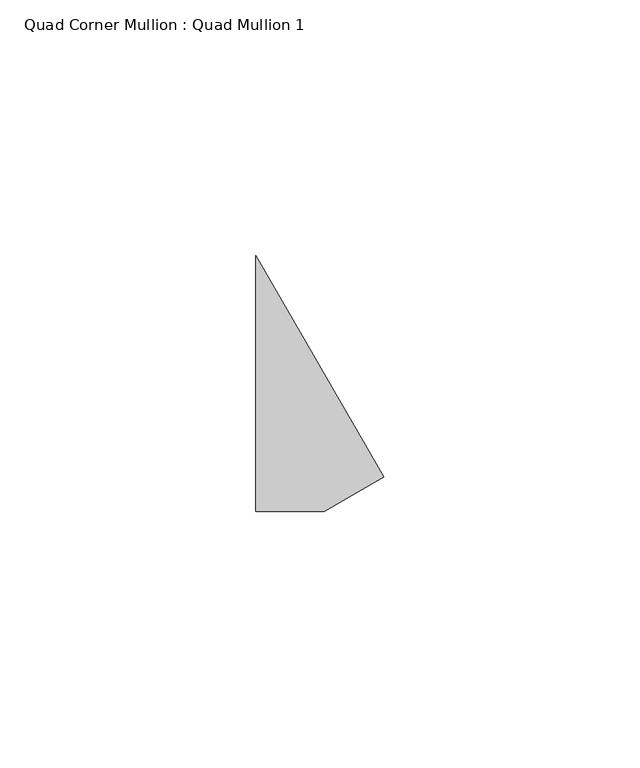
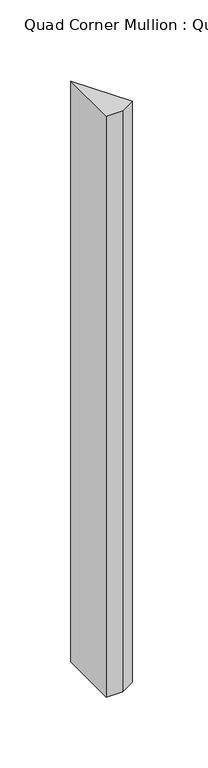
"""IFC4 building model written with IfcOpenShell, lengths in millimetres: member geometry, Quad Corner Mullion : Quad Mullion 1."""

from ifc_helpers import new_model, si_unit, frame, origin, place, context, project, spatial, polyline, outline, extrude, source, transform, mapped, element, save


def quad_corner_mullion_quad_mullion_1_ed790052(model_context):
    return source(origin(), model_context, "Body", "SweptSolid", [
        extrude(outline(polyline([(18.3012702, -18.3012702), (6.6987298, -25.0), (-6.6987298, -25.0), (-6.6987298, 25.0), (18.3012702, -18.3012702)])), frame((0.0, 0.0, -500.0), z_axis=(0.0, 0.0, 1.0), x_axis=(1.0, 0.0, 0.0)), (0.0, 0.0, 1.0), 500.0),
    ])


if __name__ == "__main__":
    model = new_model("IFC4")
    model_context = context("Model", 3, world=origin())
    ifc_project = project(units=[si_unit("LENGTHUNIT", "METRE", prefix="MILLI")], contexts=[model_context])
    site = spatial("IfcSite", under=ifc_project)
    building = spatial("IfcBuilding", under=site)
    placement = place(None, origin())
    quad_corner_mullion_quad_mullion_1_shape = quad_corner_mullion_quad_mullion_1_ed790052(model_context)
    element("IfcMember", 1, ObjectType="Quad Corner Mullion : Quad Mullion 1", at=placement, inside=building, context=model_context, shape_type="MappedRepresentation", body=[
        mapped(quad_corner_mullion_quad_mullion_1_shape, transform((0.0, 0.0, 0.0), x_axis=(1.0, 0.0, 0.0), y_axis=(0.0, 1.0, 0.0), z_axis=(0.0, 0.0, 1.0))),
    ])
    save(model, "model.ifc")
